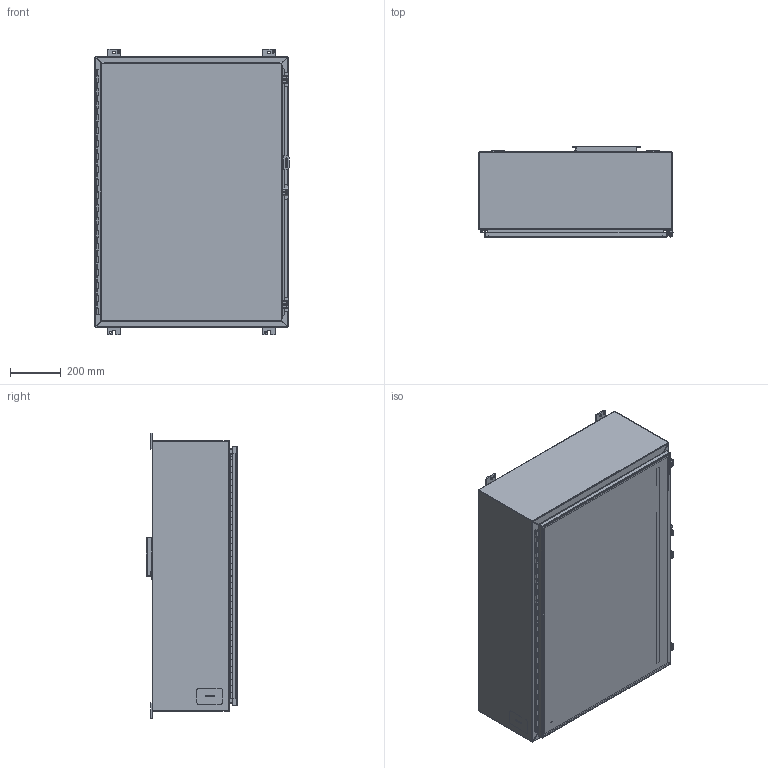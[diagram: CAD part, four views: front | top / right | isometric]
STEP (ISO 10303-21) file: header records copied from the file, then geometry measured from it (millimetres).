
FILE_DESCRIPTION(/* description */ ('Unknown'),/* implementation_level */ '2;1');
FILE_NAME(/* name */ '1418O12LP',/* time_stamp */ '2026-02-20T16:35:36-05:00',/* author */ ('Unknown'),/* organization */ ('Unknown'),/* preprocessor_version */ 'ST-DEVELOPER v18.104',/* originating_system */ 'Solid Edge',/* authorisation */ 'Unknown');
FILE_SCHEMA (('AUTOMOTIVE_DESIGN {1 0 10303 214 3 1 1}'));
Length unit declared in the file: millimetre
Products named in the file (33): 1418O12LP; STD26094; STD21878; COM42780; KIT90256; LAB30005; NTS165305; NTS16535; COM40153-1; COM71782-2; COM40153-2; PNT11078; COM70219_oa_0; HNG10620-38C; COM53845-2; COM48494; FET07710; KIT90519; WAF25059; NTS166105; AKT90223; SPR20265; SCC19011; WAF25035; COM42667; BUL10020; QLB30109; PKT99; COM48514; HNG10620-38B; HNG10620-38P; QLB20254
Assembly tree (47 placements, depth 3):
  1418O12LP
    STD26094  x6
    STD21878
    COM42780  x3
    KIT90256
      LAB30005
      NTS165305
      NTS16535
    COM40153-1
    COM71782-2
      COM40153-2
      PNT11078
      COM71782-2
      STD21878
      COM70219_oa_0
      HNG10620-38C
      COM53845-2
    COM48494
    FET07710  x4
    KIT90519
      WAF25059
      NTS166105
    AKT90223  x3
      SPR20265
      SCC19011
      WAF25035
      COM42667
    BUL10020
    QLB30109
    PKT99
    COM48514  x2
    HNG10620-38B
    HNG10620-38P
    QLB20254
    PNT11078
Bounding box: 765.17 x 358.77 x 1123.95 mm (x, y, z)
Volume: 5919206.1 mm3; surface area: 6463488.8 mm2
Topology: 45 solids, 46 shells, 1550 faces, 4025 edges, 2624 vertices
Faces by surface type: plane 1018, cylinder 397, bspline 77, torus 28, cone 28, sphere 2
Full cylindrical faces by diameter (mm): 3.175 x1, 4.763 x1, 4.976 x1, 5.41 x3, 6.198 x3, 6.35 x3, 6.731 x3, 7.137 x2, 7.805 x1, 7.938 x4, 8.382 x6, 9.525 x6, 9.906 x3, 11.113 x4, 11.303 x1, 12.7 x3, 16.51 x6, 25.4 x1, 88.9 x1
Entity records: 36606 total; most frequent: CARTESIAN_POINT 10325, ORIENTED_EDGE 5370, DIRECTION 4918, EDGE_CURVE 2685, LINE 1766, VECTOR 1766, VERTEX_POINT 1765, AXIS2_PLACEMENT_3D 1576
